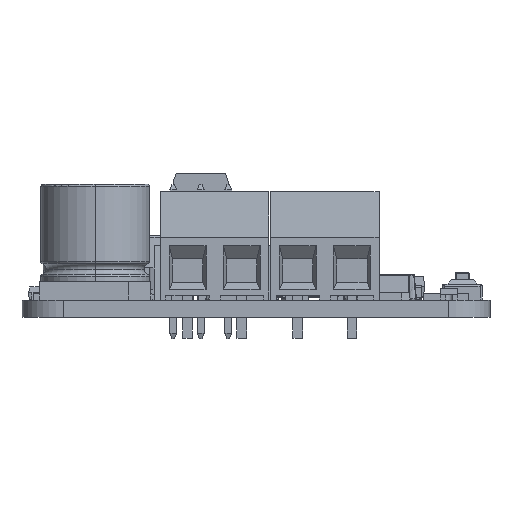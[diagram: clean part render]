
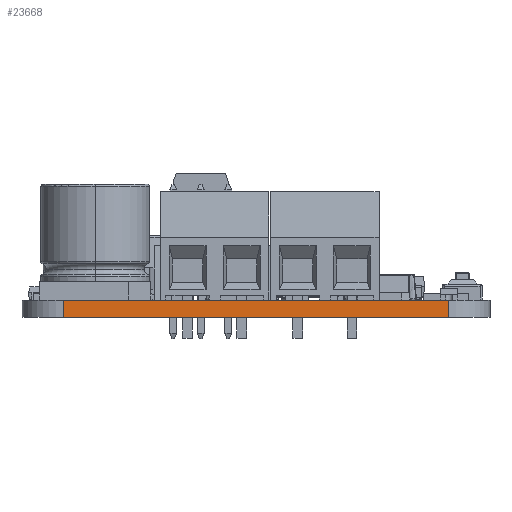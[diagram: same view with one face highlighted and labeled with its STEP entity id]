
A CAD part, left-side view. The second image highlights one B-rep face of the part: STEP entity #23668.
In plain terms, the highlighted planar face has unit normal (-1, 0, 0).
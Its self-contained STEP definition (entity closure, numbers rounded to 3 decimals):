
#928 = EDGE_LOOP ( 'NONE', ( #29571, #18352, #16514, #13231 ) ) ;
#1947 = EDGE_CURVE ( 'NONE', #19654, #29345, #5320, .T. ) ;
#2538 = CARTESIAN_POINT ( 'NONE',  ( 53.34, 64.77, 0.411 ) ) ;
#4167 = VECTOR ( 'NONE', #9278, 1000. ) ;
#5320 = LINE ( 'NONE', #9649, #33878 ) ;
#6550 = AXIS2_PLACEMENT_3D ( 'NONE', #29589, #12777, #22687 ) ;
#6767 = PLANE ( 'NONE',  #6550 ) ;
#6915 = DIRECTION ( 'NONE',  ( 0., 0., -1. ) ) ;
#8518 = VERTEX_POINT ( 'NONE', #28475 ) ;
#8734 = CARTESIAN_POINT ( 'NONE',  ( 53.34, 100.33, 0.411 ) ) ;
#9278 = DIRECTION ( 'NONE',  ( 0., 1., 0. ) ) ;
#9649 = CARTESIAN_POINT ( 'NONE',  ( 53.34, 60.96, -1.19 ) ) ;
#12777 = DIRECTION ( 'NONE',  ( -1., 0., 0. ) ) ;
#13225 = VERTEX_POINT ( 'NONE', #8734 ) ;
#13231 = ORIENTED_EDGE ( 'NONE', *, *, #18875, .T. ) ;
#16514 = ORIENTED_EDGE ( 'NONE', *, *, #34098, .F. ) ;
#18352 = ORIENTED_EDGE ( 'NONE', *, *, #1947, .T. ) ;
#18875 = EDGE_CURVE ( 'NONE', #8518, #13225, #41458, .T. ) ;
#19654 = VERTEX_POINT ( 'NONE', #30557 ) ;
#19921 = DIRECTION ( 'NONE',  ( 0., 0., -1. ) ) ;
#20745 = LINE ( 'NONE', #22788, #35584 ) ;
#22506 = EDGE_CURVE ( 'NONE', #13225, #19654, #40181, .T. ) ;
#22687 = DIRECTION ( 'NONE',  ( 0., 0., 1. ) ) ;
#22788 = CARTESIAN_POINT ( 'NONE',  ( 53.34, 64.77, 0. ) ) ;
#23668 = ADVANCED_FACE ( 'NONE', ( #42089 ), #6767, .T. ) ;
#26455 = CARTESIAN_POINT ( 'NONE',  ( 53.34, 100.33, 0. ) ) ;
#28475 = CARTESIAN_POINT ( 'NONE',  ( 53.34, 64.77, 0.411 ) ) ;
#29345 = VERTEX_POINT ( 'NONE', #38610 ) ;
#29571 = ORIENTED_EDGE ( 'NONE', *, *, #22506, .T. ) ;
#29589 = CARTESIAN_POINT ( 'NONE',  ( 53.34, 64.77, 0. ) ) ;
#30557 = CARTESIAN_POINT ( 'NONE',  ( 53.34, 100.33, -1.19 ) ) ;
#33878 = VECTOR ( 'NONE', #35547, 1000. ) ;
#34098 = EDGE_CURVE ( 'NONE', #8518, #29345, #20745, .T. ) ;
#35547 = DIRECTION ( 'NONE',  ( 0., -1., 0. ) ) ;
#35584 = VECTOR ( 'NONE', #19921, 1000. ) ;
#37598 = VECTOR ( 'NONE', #6915, 1000. ) ;
#38610 = CARTESIAN_POINT ( 'NONE',  ( 53.34, 64.77, -1.19 ) ) ;
#40181 = LINE ( 'NONE', #26455, #37598 ) ;
#41458 = LINE ( 'NONE', #2538, #4167 ) ;
#42089 = FACE_OUTER_BOUND ( 'NONE', #928, .T. ) ;
